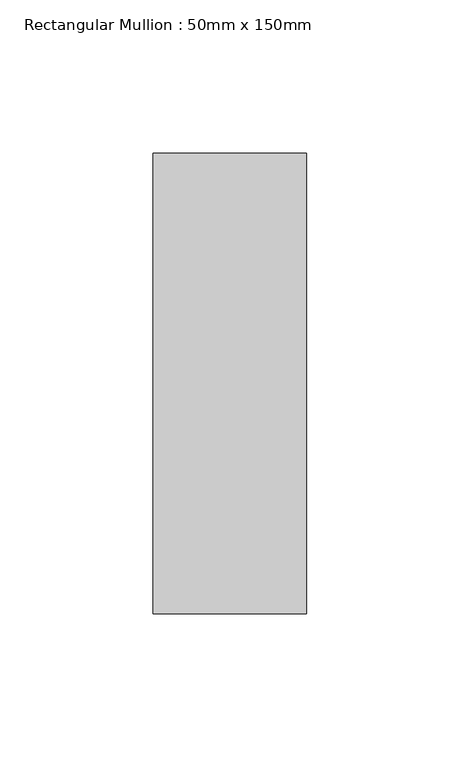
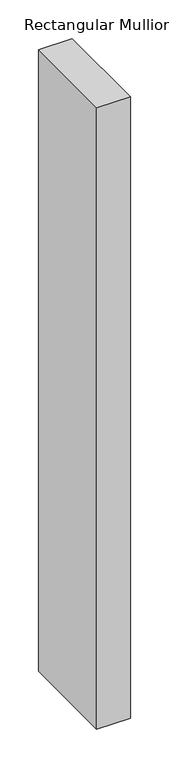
"""IFC4 building model written with IfcOpenShell, lengths in millimetres: member geometry, Rectangular Mullion : 50mm x 150mm."""

from ifc_helpers import new_model, si_unit, frame, origin, place, context, project, spatial, polyline, outline, extrude, source, transform, mapped, element, save


def rectangular_mullion_50mm_x_150mm_35f7bb67(model_context):
    return source(origin(), model_context, "Body", "SweptSolid", [
        extrude(outline(polyline([(0.0, 75.0), (0.0, -75.0), (-50.0, -75.0), (-50.0, 75.0), (0.0, 75.0)])), frame((0.0, 0.0, -977.9584148), z_axis=(0.0, 0.0, 1.0), x_axis=(1.0, 0.0, 0.0)), (0.0, 0.0, 1.0), 977.9584148),
    ])


if __name__ == "__main__":
    model = new_model("IFC4")
    model_context = context("Model", 3, world=origin())
    ifc_project = project(units=[si_unit("LENGTHUNIT", "METRE", prefix="MILLI")], contexts=[model_context])
    site = spatial("IfcSite", under=ifc_project)
    building = spatial("IfcBuilding", under=site)
    placement = place(None, origin())
    rectangular_mullion_50mm_x_150mm_shape = rectangular_mullion_50mm_x_150mm_35f7bb67(model_context)
    element("IfcMember", 1, ObjectType="Rectangular Mullion : 50mm x 150mm", at=placement, inside=building, context=model_context, shape_type="MappedRepresentation", body=[
        mapped(rectangular_mullion_50mm_x_150mm_shape, transform((0.0, 0.0, 0.0), x_axis=(1.0, 0.0, 0.0), y_axis=(0.0, 1.0, 0.0), z_axis=(0.0, 0.0, 1.0))),
    ])
    save(model, "model.ifc")
